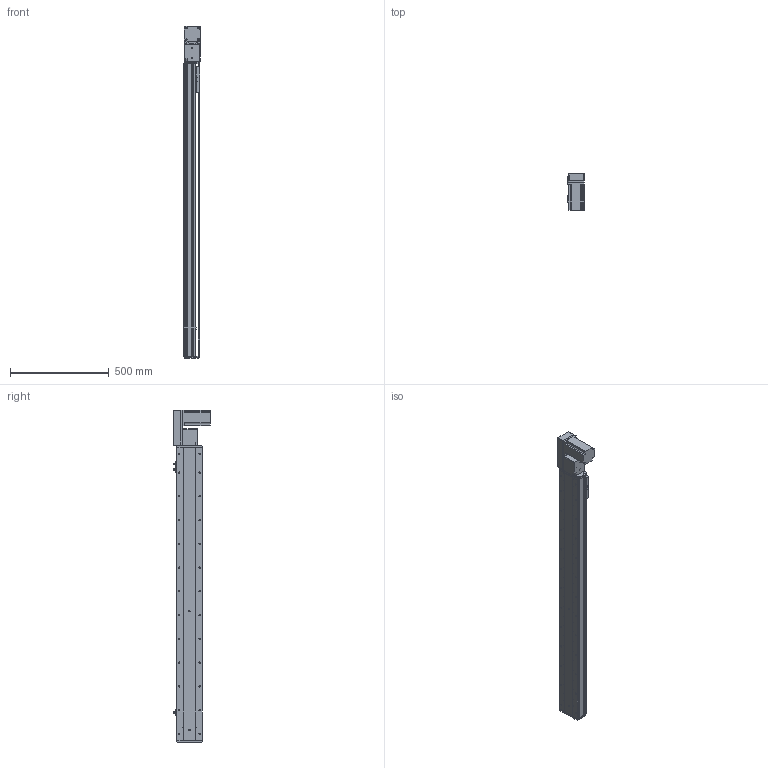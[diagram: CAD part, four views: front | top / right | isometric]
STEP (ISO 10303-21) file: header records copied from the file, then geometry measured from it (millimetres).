
FILE_DESCRIPTION (( 'STEP AP214' ), '1' );
FILE_NAME ('KSD130B-S1250-MRB-CM.STEP', '2019-11-15T07:38:46', ( '微软用户' ), ( '微软中国' ), 'SwSTEP 2.0', 'SolidWorks 2014', '' );
FILE_SCHEMA (( 'AUTOMOTIVE_DESIGN' ));
Length unit declared in the file: millimetre
Products named in the file (12): 130宽模组保护罩上下左右折-同步带; 130宽模组马达安装板连板左右折同步带; 覜茼え100遵圉猾敕; U倰嫖萇EEㄜSX672; 130宽盖板半封闭同步带-1250行程; 130宽马达安装板同步带右-改镜向_默认<按加工>; 130宽马达安装板同步带半封闭; 130宽同步带安装座半封闭; 130宽端盖同步带半封闭; 130宽底板半封闭同步带-1250行程; KSD130B-S1250-MRB-CM; 台达ECMA－C20807AS伺服电机
Assembly tree (13 placements, depth 2):
  KSD130B-S1250-MRB-CM
    130宽底板半封闭同步带-1250行程
    130宽端盖同步带半封闭
    130宽同步带安装座半封闭
    130宽马达安装板同步带半封闭
    130宽马达安装板同步带右-改镜向_默认<按加工>
    130宽盖板半封闭同步带-1250行程
    U倰嫖萇EEㄜSX672  x3
    覜茼え100遵圉猾敕
    130宽模组马达安装板连板左右折同步带
    130宽模组保护罩上下左右折-同步带
    台达ECMA－C20807AS伺服电机
Bounding box: 81 x 184.8 x 1677 mm (x, y, z)
Volume: 5662594.5 mm3; surface area: 1568685.7 mm2
Topology: 14 solids, 14 shells, 1599 faces, 4601 edges, 2931 vertices
Faces by surface type: cylinder 774, plane 634, cone 191
Entity records: 53347 total; most frequent: CARTESIAN_POINT 10076, DIRECTION 8083, ORIENTED_EDGE 7806, EDGE_CURVE 3903, AXIS2_PLACEMENT_3D 2958, VERTEX_POINT 2555, VECTOR 2167, LINE 2167
